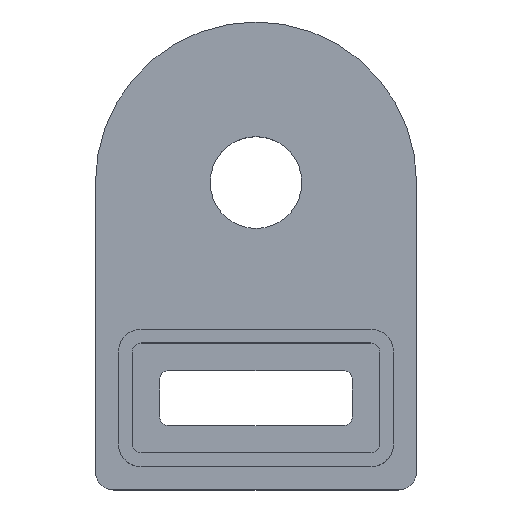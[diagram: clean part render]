
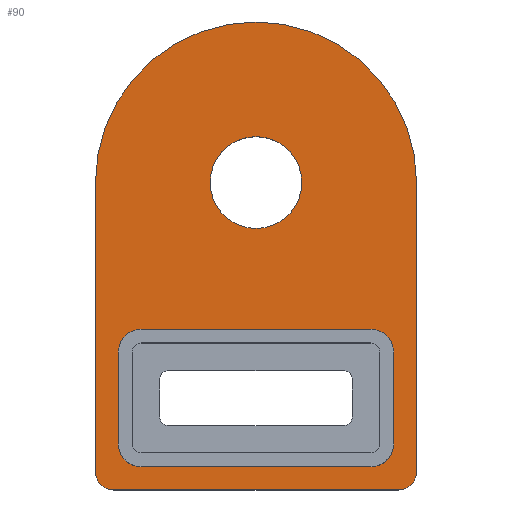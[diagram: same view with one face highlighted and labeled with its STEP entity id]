
A CAD part, top view. The second image highlights one B-rep face of the part: STEP entity #90.
In plain terms, the highlighted planar face has unit normal (0, 0, 1).
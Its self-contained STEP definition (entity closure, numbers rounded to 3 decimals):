
#21 = VERTEX_POINT ( 'NONE', #654 ) ;
#25 = ORIENTED_EDGE ( 'NONE', *, *, #586, .F. ) ;
#30 = DIRECTION ( 'NONE',  ( 1., 0., 0. ) ) ;
#48 = AXIS2_PLACEMENT_3D ( 'NONE', #1149, #592, #30 ) ;
#55 = VERTEX_POINT ( 'NONE', #1125 ) ;
#58 = EDGE_CURVE ( 'NONE', #994, #319, #984, .T. ) ;
#61 = DIRECTION ( 'NONE',  ( 0., 0., 1. ) ) ;
#62 = LINE ( 'NONE', #125, #314 ) ;
#71 = AXIS2_PLACEMENT_3D ( 'NONE', #1068, #1129, #1034 ) ;
#88 = AXIS2_PLACEMENT_3D ( 'NONE', #256, #799, #539 ) ;
#90 = ADVANCED_FACE ( 'NONE', ( #1214, #111, #710 ), #1055, .F. ) ;
#99 = LINE ( 'NONE', #558, #495 ) ;
#111 = FACE_OUTER_BOUND ( 'NONE', #970, .T. ) ;
#114 = AXIS2_PLACEMENT_3D ( 'NONE', #712, #61, #1082 ) ;
#125 = CARTESIAN_POINT ( 'NONE',  ( -17.5, 2., 5. ) ) ;
#139 = VERTEX_POINT ( 'NONE', #559 ) ;
#154 = VECTOR ( 'NONE', #402, 1000. ) ;
#155 = EDGE_CURVE ( 'NONE', #1088, #453, #849, .T. ) ;
#187 = LINE ( 'NONE', #488, #886 ) ;
#192 = CARTESIAN_POINT ( 'NONE',  ( -5., 33.5, 5. ) ) ;
#196 = ORIENTED_EDGE ( 'NONE', *, *, #467, .T. ) ;
#202 = CARTESIAN_POINT ( 'NONE',  ( 0., 33.5, 5. ) ) ;
#224 = VERTEX_POINT ( 'NONE', #1170 ) ;
#253 = CARTESIAN_POINT ( 'NONE',  ( -12.5, 2.5, 5. ) ) ;
#256 = CARTESIAN_POINT ( 'NONE',  ( -12.5, 15., 5. ) ) ;
#260 = VECTOR ( 'NONE', #1058, 1000. ) ;
#266 = AXIS2_PLACEMENT_3D ( 'NONE', #484, #837, #285 ) ;
#271 = CARTESIAN_POINT ( 'NONE',  ( 17.5, 2., 5. ) ) ;
#278 = ORIENTED_EDGE ( 'NONE', *, *, #426, .F. ) ;
#282 = LINE ( 'NONE', #422, #260 ) ;
#283 = DIRECTION ( 'NONE',  ( 1., 0., 0. ) ) ;
#285 = DIRECTION ( 'NONE',  ( -1., 0., 0. ) ) ;
#300 = CARTESIAN_POINT ( 'NONE',  ( -12.5, 5., 5. ) ) ;
#310 = DIRECTION ( 'NONE',  ( 0., -1., 0. ) ) ;
#314 = VECTOR ( 'NONE', #310, 1000. ) ;
#315 = CARTESIAN_POINT ( 'NONE',  ( 5., 33.5, 5. ) ) ;
#319 = VERTEX_POINT ( 'NONE', #847 ) ;
#337 = EDGE_CURVE ( 'NONE', #465, #21, #967, .T. ) ;
#341 = CIRCLE ( 'NONE', #660, 17.5 ) ;
#349 = ORIENTED_EDGE ( 'NONE', *, *, #155, .T. ) ;
#350 = EDGE_CURVE ( 'NONE', #21, #55, #457, .T. ) ;
#356 = VECTOR ( 'NONE', #532, 1000. ) ;
#357 = LINE ( 'NONE', #731, #1065 ) ;
#361 = DIRECTION ( 'NONE',  ( -1., 0., 0. ) ) ;
#369 = DIRECTION ( 'NONE',  ( 0., 0., 1. ) ) ;
#389 = EDGE_CURVE ( 'NONE', #139, #835, #905, .T. ) ;
#402 = DIRECTION ( 'NONE',  ( 0., -1., 0. ) ) ;
#406 = DIRECTION ( 'NONE',  ( 1., 0., 0. ) ) ;
#422 = CARTESIAN_POINT ( 'NONE',  ( -12.5, 17.5, 5. ) ) ;
#426 = EDGE_CURVE ( 'NONE', #1166, #757, #428, .T. ) ;
#428 = CIRCLE ( 'NONE', #114, 5. ) ;
#449 = CARTESIAN_POINT ( 'NONE',  ( -17.5, 33.5, 5. ) ) ;
#453 = VERTEX_POINT ( 'NONE', #1182 ) ;
#457 = CIRCLE ( 'NONE', #1072, 2.5 ) ;
#458 = VERTEX_POINT ( 'NONE', #1204 ) ;
#465 = VERTEX_POINT ( 'NONE', #914 ) ;
#466 = CIRCLE ( 'NONE', #88, 2.5 ) ;
#467 = EDGE_CURVE ( 'NONE', #490, #224, #357, .T. ) ;
#481 = ORIENTED_EDGE ( 'NONE', *, *, #791, .F. ) ;
#484 = CARTESIAN_POINT ( 'NONE',  ( -15.5, 2., 5. ) ) ;
#488 = CARTESIAN_POINT ( 'NONE',  ( -15.5, 0., 5. ) ) ;
#490 = VERTEX_POINT ( 'NONE', #271 ) ;
#492 = EDGE_CURVE ( 'NONE', #688, #490, #785, .T. ) ;
#495 = VECTOR ( 'NONE', #651, 1000. ) ;
#508 = DIRECTION ( 'NONE',  ( 0., 0., 1. ) ) ;
#517 = ORIENTED_EDGE ( 'NONE', *, *, #492, .T. ) ;
#518 = ORIENTED_EDGE ( 'NONE', *, *, #1191, .T. ) ;
#521 = CARTESIAN_POINT ( 'NONE',  ( 12.5, 17.5, 5. ) ) ;
#532 = DIRECTION ( 'NONE',  ( 1., 0., 0. ) ) ;
#539 = DIRECTION ( 'NONE',  ( 1., 0., 0. ) ) ;
#558 = CARTESIAN_POINT ( 'NONE',  ( 15., 5., 5. ) ) ;
#559 = CARTESIAN_POINT ( 'NONE',  ( 15., 15., 5. ) ) ;
#581 = ORIENTED_EDGE ( 'NONE', *, *, #991, .F. ) ;
#586 = EDGE_CURVE ( 'NONE', #458, #465, #466, .T. ) ;
#592 = DIRECTION ( 'NONE',  ( 0., 0., 1. ) ) ;
#628 = CARTESIAN_POINT ( 'NONE',  ( 15.5, 2., 5. ) ) ;
#634 = LINE ( 'NONE', #253, #356 ) ;
#640 = VERTEX_POINT ( 'NONE', #449 ) ;
#651 = DIRECTION ( 'NONE',  ( 0., 1., 0. ) ) ;
#654 = CARTESIAN_POINT ( 'NONE',  ( -15., 5., 5. ) ) ;
#660 = AXIS2_PLACEMENT_3D ( 'NONE', #1051, #508, #1148 ) ;
#688 = VERTEX_POINT ( 'NONE', #1104 ) ;
#702 = CIRCLE ( 'NONE', #1074, 5. ) ;
#703 = ORIENTED_EDGE ( 'NONE', *, *, #736, .T. ) ;
#708 = ORIENTED_EDGE ( 'NONE', *, *, #389, .F. ) ;
#710 = FACE_BOUND ( 'NONE', #892, .T. ) ;
#712 = CARTESIAN_POINT ( 'NONE',  ( 0., 33.5, 5. ) ) ;
#715 = ORIENTED_EDGE ( 'NONE', *, *, #58, .F. ) ;
#721 = ORIENTED_EDGE ( 'NONE', *, *, #337, .F. ) ;
#731 = CARTESIAN_POINT ( 'NONE',  ( 17.5, 2., 5. ) ) ;
#736 = EDGE_CURVE ( 'NONE', #224, #640, #341, .T. ) ;
#747 = CARTESIAN_POINT ( 'NONE',  ( -17.5, 2., 5. ) ) ;
#750 = EDGE_CURVE ( 'NONE', #640, #1088, #62, .T. ) ;
#757 = VERTEX_POINT ( 'NONE', #315 ) ;
#769 = ORIENTED_EDGE ( 'NONE', *, *, #750, .T. ) ;
#785 = CIRCLE ( 'NONE', #859, 2. ) ;
#791 = EDGE_CURVE ( 'NONE', #835, #458, #282, .T. ) ;
#799 = DIRECTION ( 'NONE',  ( 0., 0., 1. ) ) ;
#814 = ORIENTED_EDGE ( 'NONE', *, *, #1080, .F. ) ;
#834 = DIRECTION ( 'NONE',  ( 0., 0., 1. ) ) ;
#835 = VERTEX_POINT ( 'NONE', #521 ) ;
#837 = DIRECTION ( 'NONE',  ( 0., 0., 1. ) ) ;
#838 = DIRECTION ( 'NONE',  ( 1., 0., 0. ) ) ;
#843 = AXIS2_PLACEMENT_3D ( 'NONE', #995, #1161, #1033 ) ;
#847 = CARTESIAN_POINT ( 'NONE',  ( 15., 5., 5. ) ) ;
#849 = CIRCLE ( 'NONE', #266, 2. ) ;
#859 = AXIS2_PLACEMENT_3D ( 'NONE', #628, #369, #361 ) ;
#861 = EDGE_LOOP ( 'NONE', ( #1109, #278 ) ) ;
#886 = VECTOR ( 'NONE', #838, 1000. ) ;
#892 = EDGE_LOOP ( 'NONE', ( #25, #481, #708, #814, #715, #581, #985, #721 ) ) ;
#905 = CIRCLE ( 'NONE', #48, 2.5 ) ;
#914 = CARTESIAN_POINT ( 'NONE',  ( -15., 15., 5. ) ) ;
#948 = DIRECTION ( 'NONE',  ( 0., 0., 1. ) ) ;
#967 = LINE ( 'NONE', #1133, #154 ) ;
#970 = EDGE_LOOP ( 'NONE', ( #703, #769, #349, #518, #517, #196 ) ) ;
#984 = CIRCLE ( 'NONE', #843, 2.5 ) ;
#985 = ORIENTED_EDGE ( 'NONE', *, *, #350, .F. ) ;
#991 = EDGE_CURVE ( 'NONE', #55, #994, #634, .T. ) ;
#994 = VERTEX_POINT ( 'NONE', #1079 ) ;
#995 = CARTESIAN_POINT ( 'NONE',  ( 12.5, 5., 5. ) ) ;
#1033 = DIRECTION ( 'NONE',  ( 1., 0., 0. ) ) ;
#1034 = DIRECTION ( 'NONE',  ( -1., 0., 0. ) ) ;
#1051 = CARTESIAN_POINT ( 'NONE',  ( 0., 33.5, 5. ) ) ;
#1055 = PLANE ( 'NONE',  #71 ) ;
#1058 = DIRECTION ( 'NONE',  ( -1., 0., 0. ) ) ;
#1065 = VECTOR ( 'NONE', #1202, 1000. ) ;
#1068 = CARTESIAN_POINT ( 'NONE',  ( 0., 33.5, 5. ) ) ;
#1072 = AXIS2_PLACEMENT_3D ( 'NONE', #300, #948, #406 ) ;
#1074 = AXIS2_PLACEMENT_3D ( 'NONE', #202, #834, #283 ) ;
#1079 = CARTESIAN_POINT ( 'NONE',  ( 12.5, 2.5, 5. ) ) ;
#1080 = EDGE_CURVE ( 'NONE', #319, #139, #99, .T. ) ;
#1082 = DIRECTION ( 'NONE',  ( 1., 0., 0. ) ) ;
#1088 = VERTEX_POINT ( 'NONE', #747 ) ;
#1104 = CARTESIAN_POINT ( 'NONE',  ( 15.5, 0., 5. ) ) ;
#1109 = ORIENTED_EDGE ( 'NONE', *, *, #1116, .F. ) ;
#1116 = EDGE_CURVE ( 'NONE', #757, #1166, #702, .T. ) ;
#1125 = CARTESIAN_POINT ( 'NONE',  ( -12.5, 2.5, 5. ) ) ;
#1129 = DIRECTION ( 'NONE',  ( 0., 0., -1. ) ) ;
#1133 = CARTESIAN_POINT ( 'NONE',  ( -15., 5., 5. ) ) ;
#1148 = DIRECTION ( 'NONE',  ( -1., 0., 0. ) ) ;
#1149 = CARTESIAN_POINT ( 'NONE',  ( 12.5, 15., 5. ) ) ;
#1161 = DIRECTION ( 'NONE',  ( 0., 0., 1. ) ) ;
#1166 = VERTEX_POINT ( 'NONE', #192 ) ;
#1170 = CARTESIAN_POINT ( 'NONE',  ( 17.5, 33.5, 5. ) ) ;
#1182 = CARTESIAN_POINT ( 'NONE',  ( -15.5, 0., 5. ) ) ;
#1191 = EDGE_CURVE ( 'NONE', #453, #688, #187, .T. ) ;
#1202 = DIRECTION ( 'NONE',  ( 0., 1., 0. ) ) ;
#1204 = CARTESIAN_POINT ( 'NONE',  ( -12.5, 17.5, 5. ) ) ;
#1214 = FACE_BOUND ( 'NONE', #861, .T. ) ;
